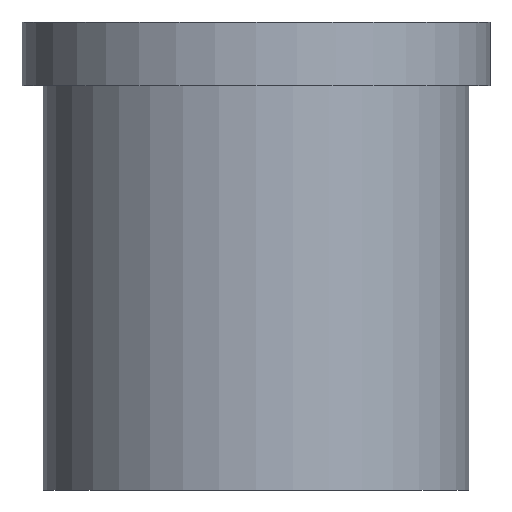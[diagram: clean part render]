
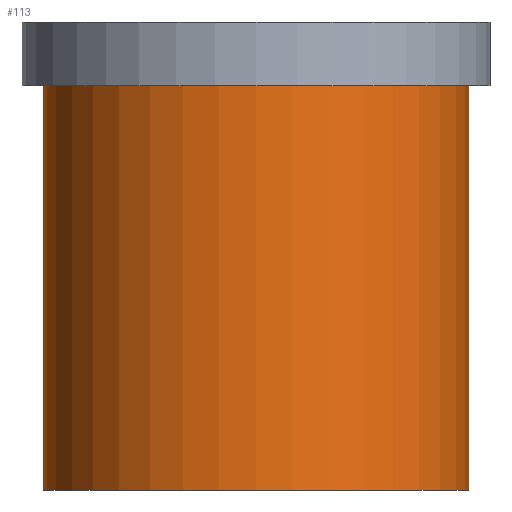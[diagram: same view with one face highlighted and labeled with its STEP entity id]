
A CAD part, front view. The second image highlights one B-rep face of the part: STEP entity #113.
In plain terms, the highlighted cylindrical face has radius 10 mm (diameter 20 mm), a partial arc.
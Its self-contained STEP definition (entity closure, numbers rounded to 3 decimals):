
#113=ADVANCED_FACE('',(#126),#120,.T.);
#120=CYLINDRICAL_SURFACE('',#249,10.);
#126=FACE_OUTER_BOUND('',#136,.T.);
#136=EDGE_LOOP('',(#179,#180,#181,#182));
#148=CIRCLE('',#244,10.);
#150=CIRCLE('',#248,10.);
#179=ORIENTED_EDGE('',*,*,#213,.F.);
#180=ORIENTED_EDGE('',*,*,#212,.T.);
#181=ORIENTED_EDGE('',*,*,#215,.T.);
#182=ORIENTED_EDGE('',*,*,#216,.F.);
#195=VERTEX_POINT('',#328);
#196=VERTEX_POINT('',#329);
#197=VERTEX_POINT('',#333);
#198=VERTEX_POINT('',#335);
#212=EDGE_CURVE('',#196,#195,#148,.T.);
#213=EDGE_CURVE('',#196,#197,#221,.T.);
#215=EDGE_CURVE('',#195,#198,#222,.T.);
#216=EDGE_CURVE('',#197,#198,#150,.T.);
#221=LINE('',#332,#227);
#222=LINE('',#336,#228);
#227=VECTOR('',#289,1.);
#228=VECTOR('',#292,1.);
#244=AXIS2_PLACEMENT_3D('',#330,#285,#286);
#248=AXIS2_PLACEMENT_3D('',#338,#295,#296);
#249=AXIS2_PLACEMENT_3D('',#339,#297,#298);
#285=DIRECTION('',(0.,0.,1.));
#286=DIRECTION('',(0.,1.,0.));
#289=DIRECTION('',(0.,0.,1.));
#292=DIRECTION('',(0.,0.,1.));
#295=DIRECTION('',(0.,0.,1.));
#296=DIRECTION('',(0.,1.,0.));
#297=DIRECTION('',(0.,0.,1.));
#298=DIRECTION('',(0.,-1.,0.));
#328=CARTESIAN_POINT('',(10.,0.,-19.));
#329=CARTESIAN_POINT('',(-10.,0.,-19.));
#330=CARTESIAN_POINT('',(0.,0.,-19.));
#332=CARTESIAN_POINT('',(-10.,0.,-19.));
#333=CARTESIAN_POINT('',(-10.,0.,0.));
#335=CARTESIAN_POINT('',(10.,0.,0.));
#336=CARTESIAN_POINT('',(10.,0.,-19.));
#338=CARTESIAN_POINT('',(0.,0.,0.));
#339=CARTESIAN_POINT('',(0.,0.,-19.));
